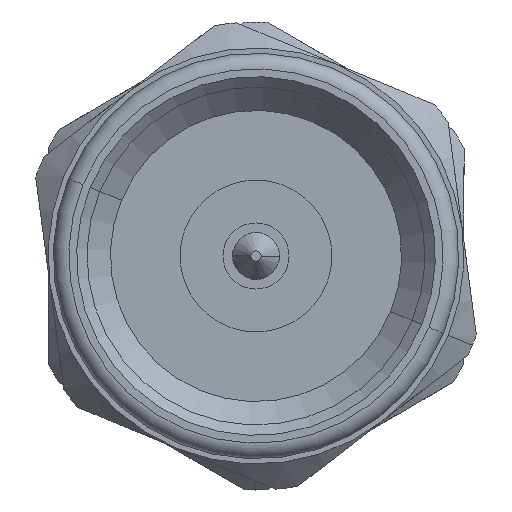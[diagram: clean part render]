
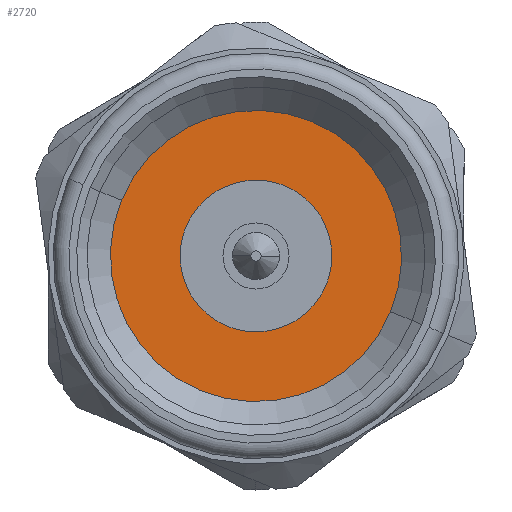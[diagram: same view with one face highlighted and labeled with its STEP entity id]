
A CAD part, left-side view. The second image highlights one B-rep face of the part: STEP entity #2720.
In plain terms, the highlighted planar face has unit normal (-1, 0, 0) as drawn and (1, 0, 0) by its records, which use the part's own axes.
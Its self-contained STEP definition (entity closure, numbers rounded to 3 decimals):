
#5 = CARTESIAN_POINT ( 'NONE',  ( 15.5, 0., -1.46 ) ) ;
#200 = ORIENTED_EDGE ( 'NONE', *, *, #791, .F. ) ;
#214 = CARTESIAN_POINT ( 'NONE',  ( 15.5, 3., 0. ) ) ;
#221 = CARTESIAN_POINT ( 'NONE',  ( 15.5, 0., 0. ) ) ;
#332 = AXIS2_PLACEMENT_3D ( 'NONE', #2307, #998, #2524 ) ;
#365 = ORIENTED_EDGE ( 'NONE', *, *, #1907, .F. ) ;
#381 = CARTESIAN_POINT ( 'NONE',  ( 15.5, 0., 0. ) ) ;
#602 = DIRECTION ( 'NONE',  ( -1., 0., 0. ) ) ;
#605 = VERTEX_POINT ( 'NONE', #1623 ) ;
#686 = DIRECTION ( 'NONE',  ( 0., 0., 1. ) ) ;
#721 = EDGE_CURVE ( 'NONE', #1983, #1025, #1045, .T. ) ;
#728 = VERTEX_POINT ( 'NONE', #823 ) ;
#791 = EDGE_CURVE ( 'NONE', #605, #728, #1755, .T. ) ;
#823 = CARTESIAN_POINT ( 'NONE',  ( 15.5, 0., -3. ) ) ;
#917 = DIRECTION ( 'NONE',  ( -1., 0., 0. ) ) ;
#958 = EDGE_CURVE ( 'NONE', #1025, #1983, #1924, .T. ) ;
#964 = CIRCLE ( 'NONE', #2136, 3. ) ;
#985 = ORIENTED_EDGE ( 'NONE', *, *, #958, .T. ) ;
#998 = DIRECTION ( 'NONE',  ( -1., 0., 0. ) ) ;
#1025 = VERTEX_POINT ( 'NONE', #2123 ) ;
#1031 = DIRECTION ( 'NONE',  ( 0., 0., 1. ) ) ;
#1045 = CIRCLE ( 'NONE', #1721, 1.46 ) ;
#1126 = EDGE_LOOP ( 'NONE', ( #985, #1878 ) ) ;
#1293 = CARTESIAN_POINT ( 'NONE',  ( 15.5, 0., 0. ) ) ;
#1332 = FACE_BOUND ( 'NONE', #1126, .T. ) ;
#1523 = DIRECTION ( 'NONE',  ( 0., 0., 1. ) ) ;
#1559 = DIRECTION ( 'NONE',  ( -1., 0., 0. ) ) ;
#1582 = AXIS2_PLACEMENT_3D ( 'NONE', #221, #917, #686 ) ;
#1623 = CARTESIAN_POINT ( 'NONE',  ( 15.5, 0., 3. ) ) ;
#1721 = AXIS2_PLACEMENT_3D ( 'NONE', #381, #602, #1031 ) ;
#1755 = CIRCLE ( 'NONE', #1582, 3. ) ;
#1878 = ORIENTED_EDGE ( 'NONE', *, *, #721, .T. ) ;
#1907 = EDGE_CURVE ( 'NONE', #728, #605, #964, .T. ) ;
#1923 = AXIS2_PLACEMENT_3D ( 'NONE', #214, #1559, #2202 ) ;
#1924 = CIRCLE ( 'NONE', #332, 1.46 ) ;
#1982 = PLANE ( 'NONE',  #1923 ) ;
#1983 = VERTEX_POINT ( 'NONE', #5 ) ;
#2123 = CARTESIAN_POINT ( 'NONE',  ( 15.5, 0., 1.46 ) ) ;
#2136 = AXIS2_PLACEMENT_3D ( 'NONE', #1293, #2824, #1523 ) ;
#2202 = DIRECTION ( 'NONE',  ( 0., 0., 1. ) ) ;
#2307 = CARTESIAN_POINT ( 'NONE',  ( 15.5, 0., 0. ) ) ;
#2524 = DIRECTION ( 'NONE',  ( 0., 0., 1. ) ) ;
#2557 = FACE_OUTER_BOUND ( 'NONE', #2621, .T. ) ;
#2621 = EDGE_LOOP ( 'NONE', ( #200, #365 ) ) ;
#2720 = ADVANCED_FACE ( 'NONE', ( #2557, #1332 ), #1982, .F. ) ;
#2824 = DIRECTION ( 'NONE',  ( -1., 0., 0. ) ) ;
